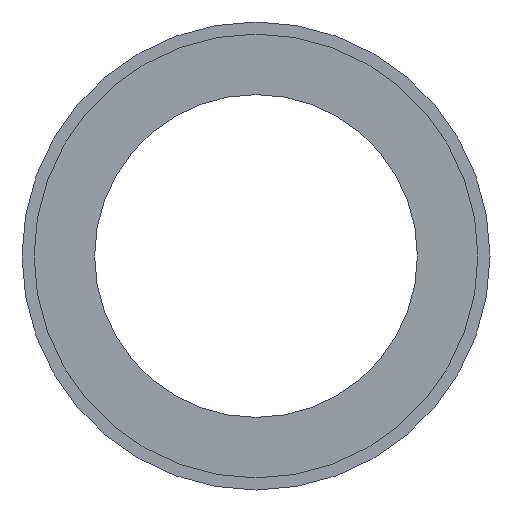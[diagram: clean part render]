
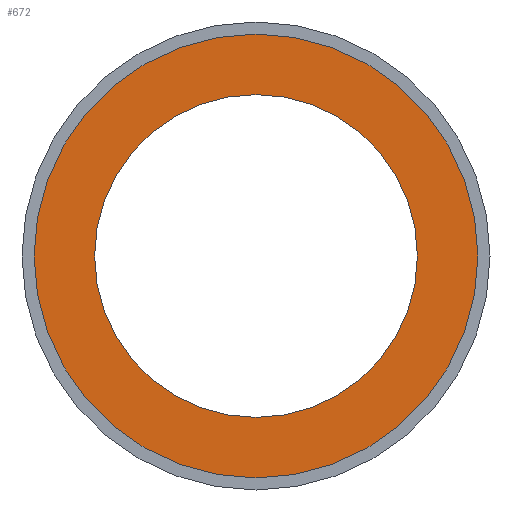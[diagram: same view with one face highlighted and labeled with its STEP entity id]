
A CAD part, front view. The second image highlights one B-rep face of the part: STEP entity #672.
In plain terms, the highlighted planar face has unit normal (0, -1, 0).
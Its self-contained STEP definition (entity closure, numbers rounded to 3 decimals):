
#535 = AXIS2_PLACEMENT_3D ( 'NONE', #2189, #2261, #2753 ) ;
#592 = CARTESIAN_POINT ( 'NONE',  ( 0., -22., -60. ) ) ;
#604 = CARTESIAN_POINT ( 'NONE',  ( 0., -22., 0. ) ) ;
#634 = CARTESIAN_POINT ( 'NONE',  ( 0., -22., 0. ) ) ;
#668 = CARTESIAN_POINT ( 'NONE',  ( 0., -22., 60. ) ) ;
#672 = ADVANCED_FACE ( 'NONE', ( #3471, #1432 ), #1396, .F. ) ;
#756 = AXIS2_PLACEMENT_3D ( 'NONE', #3548, #1361, #3904 ) ;
#771 = VERTEX_POINT ( 'NONE', #2062 ) ;
#1042 = DIRECTION ( 'NONE',  ( 0., 1., 0. ) ) ;
#1065 = EDGE_CURVE ( 'NONE', #2164, #2521, #3763, .T. ) ;
#1279 = AXIS2_PLACEMENT_3D ( 'NONE', #634, #1912, #2870 ) ;
#1361 = DIRECTION ( 'NONE',  ( 0., -1., 0. ) ) ;
#1385 = DIRECTION ( 'NONE',  ( 0., 0., 1. ) ) ;
#1396 = PLANE ( 'NONE',  #3656 ) ;
#1432 = FACE_OUTER_BOUND ( 'NONE', #2762, .T. ) ;
#1507 = EDGE_LOOP ( 'NONE', ( #3505, #1797 ) ) ;
#1797 = ORIENTED_EDGE ( 'NONE', *, *, #1884, .F. ) ;
#1884 = EDGE_CURVE ( 'NONE', #2521, #2164, #2723, .T. ) ;
#1912 = DIRECTION ( 'NONE',  ( 0., -1., 0. ) ) ;
#2062 = CARTESIAN_POINT ( 'NONE',  ( 0., -22., 82.5 ) ) ;
#2164 = VERTEX_POINT ( 'NONE', #592 ) ;
#2189 = CARTESIAN_POINT ( 'NONE',  ( 0., -22., 0. ) ) ;
#2237 = EDGE_CURVE ( 'NONE', #771, #2614, #3406, .T. ) ;
#2261 = DIRECTION ( 'NONE',  ( 0., -1., 0. ) ) ;
#2521 = VERTEX_POINT ( 'NONE', #668 ) ;
#2609 = ORIENTED_EDGE ( 'NONE', *, *, #2872, .T. ) ;
#2614 = VERTEX_POINT ( 'NONE', #3283 ) ;
#2723 = CIRCLE ( 'NONE', #756, 60. ) ;
#2732 = CIRCLE ( 'NONE', #3606, 82.5 ) ;
#2753 = DIRECTION ( 'NONE',  ( 0., 0., -1. ) ) ;
#2762 = EDGE_LOOP ( 'NONE', ( #2609, #3158 ) ) ;
#2830 = DIRECTION ( 'NONE',  ( 0., -1., 0. ) ) ;
#2870 = DIRECTION ( 'NONE',  ( 0., 0., -1. ) ) ;
#2872 = EDGE_CURVE ( 'NONE', #2614, #771, #2732, .T. ) ;
#3158 = ORIENTED_EDGE ( 'NONE', *, *, #2237, .T. ) ;
#3283 = CARTESIAN_POINT ( 'NONE',  ( 0., -22., -82.5 ) ) ;
#3406 = CIRCLE ( 'NONE', #535, 82.5 ) ;
#3471 = FACE_BOUND ( 'NONE', #1507, .T. ) ;
#3505 = ORIENTED_EDGE ( 'NONE', *, *, #1065, .F. ) ;
#3548 = CARTESIAN_POINT ( 'NONE',  ( 0., -22., 0. ) ) ;
#3606 = AXIS2_PLACEMENT_3D ( 'NONE', #604, #2830, #4082 ) ;
#3632 = CARTESIAN_POINT ( 'NONE',  ( 0., -22., 60. ) ) ;
#3656 = AXIS2_PLACEMENT_3D ( 'NONE', #3632, #1042, #1385 ) ;
#3763 = CIRCLE ( 'NONE', #1279, 60. ) ;
#3904 = DIRECTION ( 'NONE',  ( 0., 0., -1. ) ) ;
#4082 = DIRECTION ( 'NONE',  ( 0., 0., -1. ) ) ;
